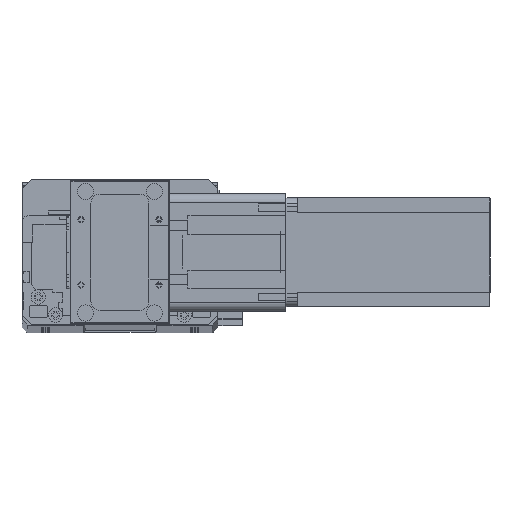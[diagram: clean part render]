
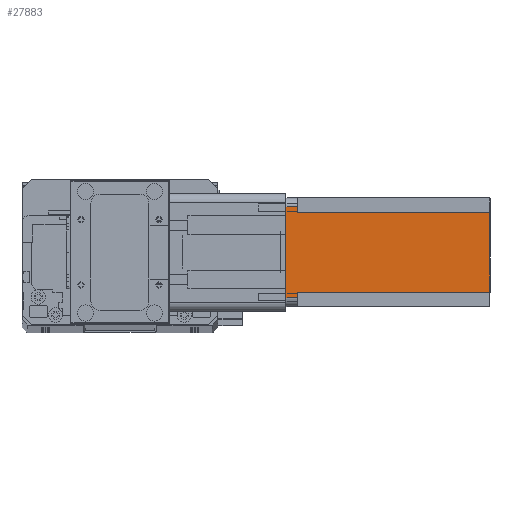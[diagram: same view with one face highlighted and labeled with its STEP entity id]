
A CAD part, top view. The second image highlights one B-rep face of the part: STEP entity #27883.
In plain terms, the highlighted planar face has unit normal (0, 0, 1) as drawn and (0, 1, 0) by its records, which use the part's own axes.
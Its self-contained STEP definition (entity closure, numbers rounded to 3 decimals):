
#1197 = CARTESIAN_POINT ( 'NONE',  ( 0., 60., -112.5 ) ) ;
#1217 = DIRECTION ( 'NONE',  ( 0., 0., -1. ) ) ;
#1420 = ORIENTED_EDGE ( 'NONE', *, *, #16339, .T. ) ;
#1843 = EDGE_CURVE ( 'NONE', #12284, #13296, #8642, .T. ) ;
#2126 = VERTEX_POINT ( 'NONE', #11990 ) ;
#3554 = DIRECTION ( 'NONE',  ( -1., 0., 0. ) ) ;
#3625 = DIRECTION ( 'NONE',  ( 0., 1., 0. ) ) ;
#4006 = DIRECTION ( 'NONE',  ( 1., 0., 0. ) ) ;
#4249 = VERTEX_POINT ( 'NONE', #17185 ) ;
#4361 = ORIENTED_EDGE ( 'NONE', *, *, #25768, .T. ) ;
#4912 = VECTOR ( 'NONE', #1217, 1000. ) ;
#5041 = AXIS2_PLACEMENT_3D ( 'NONE', #29565, #3625, #20119 ) ;
#5982 = LINE ( 'NONE', #11436, #22622 ) ;
#7287 = DIRECTION ( 'NONE',  ( -1., 0., 0. ) ) ;
#8142 = CARTESIAN_POINT ( 'NONE',  ( 55., 60., -112.5 ) ) ;
#8506 = LINE ( 'NONE', #16254, #14033 ) ;
#8642 = LINE ( 'NONE', #9446, #26798 ) ;
#8878 = VECTOR ( 'NONE', #15057, 1000. ) ;
#9198 = ORIENTED_EDGE ( 'NONE', *, *, #16039, .T. ) ;
#9446 = CARTESIAN_POINT ( 'NONE',  ( 0., 60., 0. ) ) ;
#9957 = FACE_OUTER_BOUND ( 'NONE', #12630, .T. ) ;
#10032 = CARTESIAN_POINT ( 'NONE',  ( 8., 60., -6.5 ) ) ;
#10602 = PLANE ( 'NONE',  #5041 ) ;
#10632 = VECTOR ( 'NONE', #3554, 1000. ) ;
#11436 = CARTESIAN_POINT ( 'NONE',  ( 52., 60., -112.5 ) ) ;
#11777 = CARTESIAN_POINT ( 'NONE',  ( 5., 60., 0. ) ) ;
#11990 = CARTESIAN_POINT ( 'NONE',  ( 52., 60., -6.5 ) ) ;
#12284 = VERTEX_POINT ( 'NONE', #23752 ) ;
#12630 = EDGE_LOOP ( 'NONE', ( #26079, #9198, #26148, #26894, #24111, #24170, #4361, #1420 ) ) ;
#13296 = VERTEX_POINT ( 'NONE', #11777 ) ;
#14033 = VECTOR ( 'NONE', #28077, 1000. ) ;
#14524 = EDGE_CURVE ( 'NONE', #2126, #4249, #27861, .T. ) ;
#15024 = EDGE_CURVE ( 'NONE', #25499, #25639, #23027, .T. ) ;
#15057 = DIRECTION ( 'NONE',  ( 0., 0., -1. ) ) ;
#15313 = CARTESIAN_POINT ( 'NONE',  ( 8., 60., -112.5 ) ) ;
#15730 = EDGE_CURVE ( 'NONE', #24472, #2126, #5982, .T. ) ;
#15991 = CARTESIAN_POINT ( 'NONE',  ( 8., 60., -6.5 ) ) ;
#16039 = EDGE_CURVE ( 'NONE', #12284, #4249, #21486, .T. ) ;
#16092 = DIRECTION ( 'NONE',  ( -1., 0., 0. ) ) ;
#16254 = CARTESIAN_POINT ( 'NONE',  ( 5., 60., -112.5 ) ) ;
#16339 = EDGE_CURVE ( 'NONE', #17087, #13296, #8506, .T. ) ;
#17087 = VERTEX_POINT ( 'NONE', #17256 ) ;
#17185 = CARTESIAN_POINT ( 'NONE',  ( 55., 60., -6.5 ) ) ;
#17256 = CARTESIAN_POINT ( 'NONE',  ( 5., 60., -6.5 ) ) ;
#17897 = CARTESIAN_POINT ( 'NONE',  ( 8., 60., -112.5 ) ) ;
#18177 = VECTOR ( 'NONE', #16092, 1000. ) ;
#20119 = DIRECTION ( 'NONE',  ( 0., 0., 1. ) ) ;
#20138 = EDGE_CURVE ( 'NONE', #24472, #25639, #29543, .T. ) ;
#20508 = CARTESIAN_POINT ( 'NONE',  ( 52., 60., -6.5 ) ) ;
#20959 = DIRECTION ( 'NONE',  ( 0., 0., 1. ) ) ;
#21192 = CARTESIAN_POINT ( 'NONE',  ( 52., 60., -112.5 ) ) ;
#21486 = LINE ( 'NONE', #8142, #8878 ) ;
#22327 = VECTOR ( 'NONE', #4006, 1000. ) ;
#22622 = VECTOR ( 'NONE', #20959, 1000. ) ;
#23027 = LINE ( 'NONE', #15313, #4912 ) ;
#23752 = CARTESIAN_POINT ( 'NONE',  ( 55., 60., 0. ) ) ;
#24111 = ORIENTED_EDGE ( 'NONE', *, *, #20138, .T. ) ;
#24170 = ORIENTED_EDGE ( 'NONE', *, *, #15024, .F. ) ;
#24472 = VERTEX_POINT ( 'NONE', #21192 ) ;
#24486 = LINE ( 'NONE', #15991, #18177 ) ;
#25499 = VERTEX_POINT ( 'NONE', #10032 ) ;
#25639 = VERTEX_POINT ( 'NONE', #17897 ) ;
#25768 = EDGE_CURVE ( 'NONE', #25499, #17087, #24486, .T. ) ;
#26079 = ORIENTED_EDGE ( 'NONE', *, *, #1843, .F. ) ;
#26148 = ORIENTED_EDGE ( 'NONE', *, *, #14524, .F. ) ;
#26798 = VECTOR ( 'NONE', #7287, 1000. ) ;
#26894 = ORIENTED_EDGE ( 'NONE', *, *, #15730, .F. ) ;
#27861 = LINE ( 'NONE', #20508, #22327 ) ;
#27883 = ADVANCED_FACE ( 'NONE', ( #9957 ), #10602, .T. ) ;
#28077 = DIRECTION ( 'NONE',  ( 0., 0., 1. ) ) ;
#29543 = LINE ( 'NONE', #1197, #10632 ) ;
#29565 = CARTESIAN_POINT ( 'NONE',  ( 0., 60., -112.5 ) ) ;
